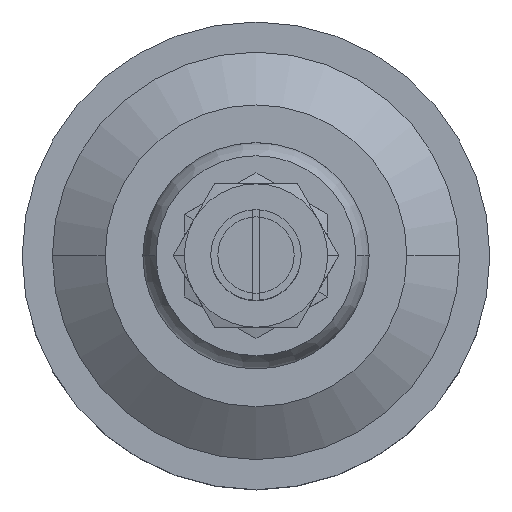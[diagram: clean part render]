
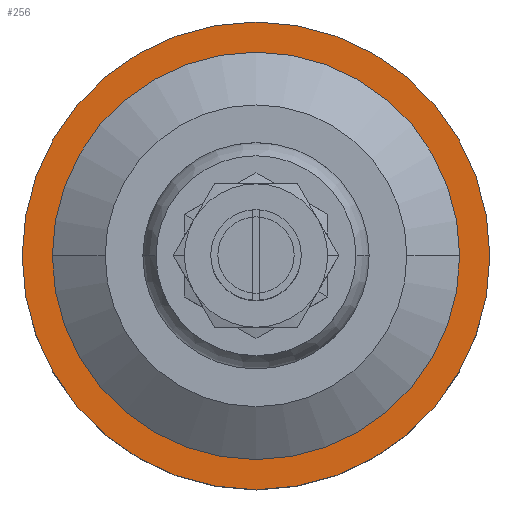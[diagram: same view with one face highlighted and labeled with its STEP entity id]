
A CAD part, top view. The second image highlights one B-rep face of the part: STEP entity #256.
In plain terms, the highlighted planar face has unit normal (0, 0, 1).
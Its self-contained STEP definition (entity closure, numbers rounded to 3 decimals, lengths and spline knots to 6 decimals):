
#256=ADVANCED_FACE('34:16',(#453,#454),#455,.T.);
#453=FACE_BOUND('',#656,.T.);
#454=FACE_OUTER_BOUND('',#657,.T.);
#455=PLANE('',#658);
#656=EDGE_LOOP('',(#1323,#1324));
#657=EDGE_LOOP('',(#1325,#1326));
#658=AXIS2_PLACEMENT_3D('',#1327,#1328,#1329);
#1323=ORIENTED_EDGE('',*,*,#1568,.F.);
#1324=ORIENTED_EDGE('',*,*,#1569,.F.);
#1325=ORIENTED_EDGE('',*,*,#1561,.F.);
#1326=ORIENTED_EDGE('',*,*,#1570,.F.);
#1327=CARTESIAN_POINT('',(0.0,0.0,0.022));
#1328=DIRECTION('',(0.0,0.0,1.0));
#1329=DIRECTION('',(1.0,0.0,0.0));
#1561=EDGE_CURVE('34:37',#1895,#1891,#1897,.F.);
#1568=EDGE_CURVE('34:34',#1908,#1904,#1910,.T.);
#1569=EDGE_CURVE('34:34',#1904,#1908,#1911,.T.);
#1570=EDGE_CURVE('34:37',#1891,#1895,#1912,.F.);
#1891=VERTEX_POINT('',#2729);
#1895=VERTEX_POINT('',#2734);
#1897=CIRCLE('',#2737,0.031);
#1904=VERTEX_POINT('',#2746);
#1908=VERTEX_POINT('',#2751);
#1910=CIRCLE('',#2754,0.027);
#1911=CIRCLE('',#2755,0.027);
#1912=CIRCLE('',#2756,0.031);
#2729=CARTESIAN_POINT('',(0.031,0.,0.022));
#2734=CARTESIAN_POINT('',(-0.031,0.,0.022));
#2737=AXIS2_PLACEMENT_3D('',#3088,#3089,#3090);
#2746=CARTESIAN_POINT('',(0.027,0.,0.022));
#2751=CARTESIAN_POINT('',(-0.027,0.,0.022));
#2754=AXIS2_PLACEMENT_3D('',#3101,#3102,#3103);
#2755=AXIS2_PLACEMENT_3D('',#3104,#3105,#3106);
#2756=AXIS2_PLACEMENT_3D('',#3107,#3108,#3109);
#3088=CARTESIAN_POINT('',(0.0,0.0,0.022));
#3089=DIRECTION('',(0.0,0.0,1.0));
#3090=DIRECTION('',(1.0,0.0,0.0));
#3101=CARTESIAN_POINT('',(0.0,0.0,0.022));
#3102=DIRECTION('',(0.0,0.0,1.0));
#3103=DIRECTION('',(1.0,0.0,-0.0));
#3104=CARTESIAN_POINT('',(0.0,0.0,0.022));
#3105=DIRECTION('',(0.0,0.0,1.0));
#3106=DIRECTION('',(1.0,0.0,-0.0));
#3107=CARTESIAN_POINT('',(0.0,0.0,0.022));
#3108=DIRECTION('',(0.0,0.0,1.0));
#3109=DIRECTION('',(1.0,0.0,0.0));
